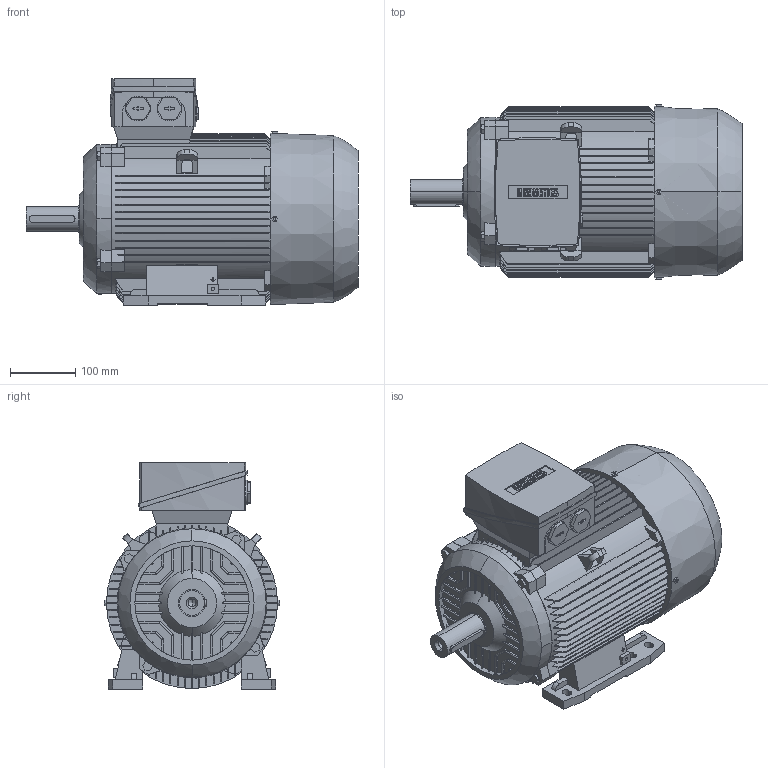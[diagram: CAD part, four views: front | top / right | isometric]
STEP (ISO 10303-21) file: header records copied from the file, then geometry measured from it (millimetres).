
FILE_DESCRIPTION(('STEP AP214'),'1');
FILE_NAME('cctmp_D0623A83-7E3C-40E1-8D26-E768596518E0_2026_04_16_11_19_01_0987_46896..stp','2026-04-16T09:19:02',('KiM GmbH'),('CADClick - www.CADClick.com'),'Spatial InterOp 3D',' ','unknown authorization');
FILE_SCHEMA(('AUTOMOTIVE_DESIGN'));
Length unit declared in the file: millimetre
Products named in the file (1): 2026_04_16_11_19_01_0983
Bounding box: 508 x 269 x 346.5 mm (x, y, z)
Volume: 21135159.6 mm3; surface area: 934291.7 mm2
Topology: 7 solids, 7 shells, 1214 faces, 3466 edges, 2279 vertices
Faces by surface type: plane 796, cylinder 280, torus 118, cone 20
Entity records: 56626 total; most frequent: CARTESIAN_POINT 15734, ORIENTED_EDGE 6880, DIRECTION 6020, EDGE_CURVE 3440, VERTEX_POINT 2279, LINE 2182, VECTOR 2182, AXIS2_PLACEMENT_3D 1919
